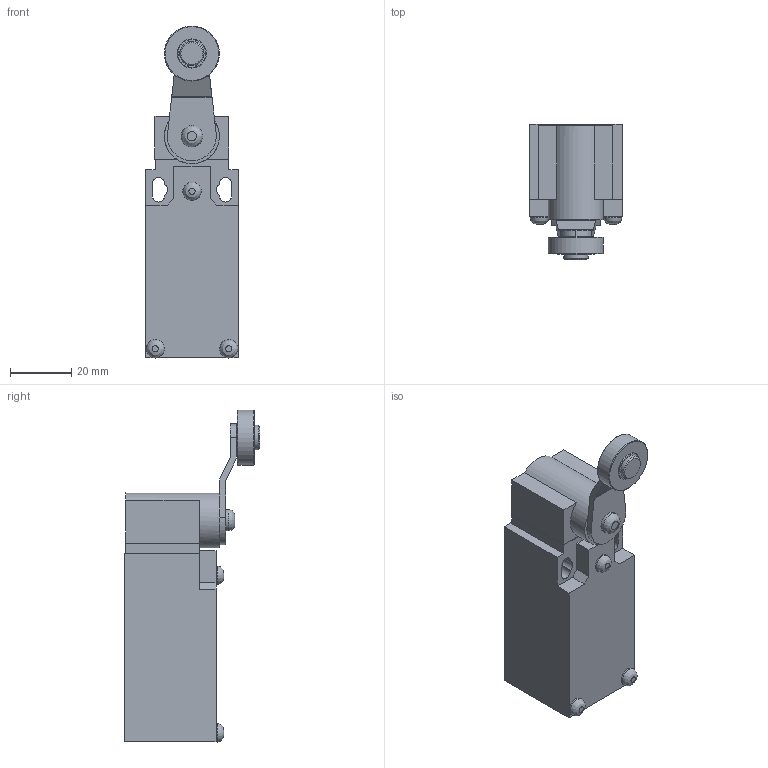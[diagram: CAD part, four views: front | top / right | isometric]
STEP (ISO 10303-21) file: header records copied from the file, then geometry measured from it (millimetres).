
FILE_DESCRIPTION((''),'2;1');
FILE_NAME('C:\Workarea\Disegni\Comepi\Catalogo\Stp\Finecorsa\AM1-F41.iam.step','2011-07-22T16:14:30',(''),(''),'Autodesk Inventor 2012','Autodesk Inventor 2012','');
FILE_SCHEMA(('AUTOMOTIVE_DESIGN { 1 0 10303 214 1 1 1 1 }'));
Length unit declared in the file: millimetre
Products named in the file (5): AM1-F41; AM1; T41; T41_1; T41_2
Assembly tree (4 placements, depth 3):
  AM1-F41
    AM1
    T41
      T41_1
      T41_2
Bounding box: 30.3 x 44.3 x 108.57 mm (x, y, z)
Volume: 63872.4 mm3; surface area: 16525.1 mm2
Topology: 3 solids, 3 shells, 92 faces, 216 edges, 139 vertices
Faces by surface type: plane 58, cylinder 23, bspline 4, torus 4, cone 3
Full cylindrical faces by diameter (mm): 6 x5, 7 x1, 8 x1, 18 x2, 20.4 x1
Entity records: 2859 total; most frequent: CARTESIAN_POINT 605, DIRECTION 448, ORIENTED_EDGE 384, EDGE_CURVE 192, AXIS2_PLACEMENT_3D 159, VERTEX_POINT 136, VECTOR 130, LINE 130
